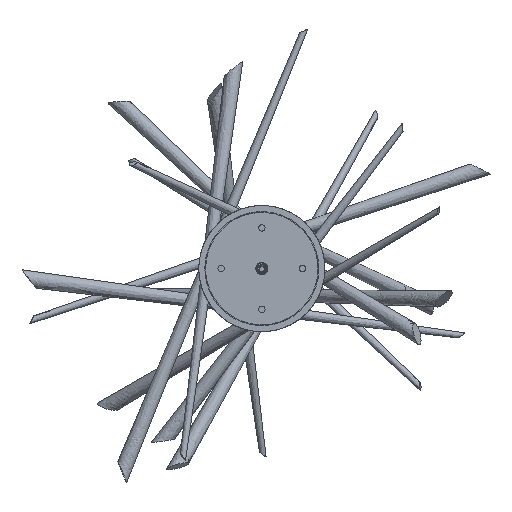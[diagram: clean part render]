
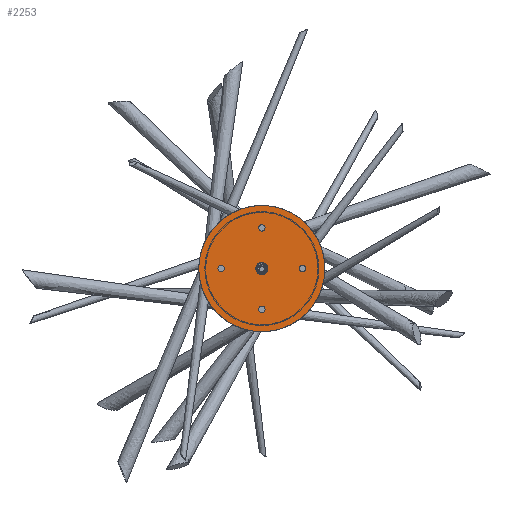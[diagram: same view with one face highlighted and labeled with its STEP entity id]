
A CAD part, top view. The second image highlights one B-rep face of the part: STEP entity #2253.
In plain terms, the highlighted planar face has unit normal (0, 0, 1).
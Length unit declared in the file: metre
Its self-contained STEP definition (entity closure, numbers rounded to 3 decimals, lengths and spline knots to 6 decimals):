
#1245=FACE_BOUND('',#4664,.T.);
#1246=FACE_BOUND('',#4665,.T.);
#1247=FACE_BOUND('',#4666,.T.);
#1248=FACE_BOUND('',#4667,.T.);
#1249=FACE_BOUND('',#4668,.T.);
#2253=ADVANCED_FACE('',(#3359,#1245,#1246,#1247,#1248,#1249),#18971,.T.);
#3359=FACE_OUTER_BOUND('',#4663,.T.);
#4663=EDGE_LOOP('',(#9895,#9896));
#4664=EDGE_LOOP('',(#9897,#9898));
#4665=EDGE_LOOP('',(#9899,#9900));
#4666=EDGE_LOOP('',(#9901,#9902));
#4667=EDGE_LOOP('',(#9903,#9904));
#4668=EDGE_LOOP('',(#9905,#9906));
#9895=ORIENTED_EDGE('',*,*,#13287,.F.);
#9896=ORIENTED_EDGE('',*,*,#13288,.F.);
#9897=ORIENTED_EDGE('',*,*,#13263,.T.);
#9898=ORIENTED_EDGE('',*,*,#13262,.T.);
#9899=ORIENTED_EDGE('',*,*,#13268,.T.);
#9900=ORIENTED_EDGE('',*,*,#13267,.T.);
#9901=ORIENTED_EDGE('',*,*,#13273,.T.);
#9902=ORIENTED_EDGE('',*,*,#13272,.T.);
#9903=ORIENTED_EDGE('',*,*,#13278,.T.);
#9904=ORIENTED_EDGE('',*,*,#13277,.T.);
#9905=ORIENTED_EDGE('',*,*,#13283,.T.);
#9906=ORIENTED_EDGE('',*,*,#13282,.T.);
#13262=EDGE_CURVE('',#18420,#18421,#16467,.T.);
#13263=EDGE_CURVE('',#18421,#18420,#16468,.T.);
#13267=EDGE_CURVE('',#18424,#18425,#16471,.T.);
#13268=EDGE_CURVE('',#18425,#18424,#16472,.T.);
#13272=EDGE_CURVE('',#18428,#18429,#16475,.T.);
#13273=EDGE_CURVE('',#18429,#18428,#16476,.T.);
#13277=EDGE_CURVE('',#18432,#18433,#16479,.T.);
#13278=EDGE_CURVE('',#18433,#18432,#16480,.T.);
#13282=EDGE_CURVE('',#18436,#18437,#16483,.T.);
#13283=EDGE_CURVE('',#18437,#18436,#16484,.T.);
#13287=EDGE_CURVE('',#18440,#18441,#16487,.T.);
#13288=EDGE_CURVE('',#18441,#18440,#16488,.T.);
#16467=(
BOUNDED_CURVE()
B_SPLINE_CURVE(2,(#47457,#47458,#47459,#47460,#47461),.UNSPECIFIED.,.F.,
 .F.)
B_SPLINE_CURVE_WITH_KNOTS((3,2,3),(47.12389,70.685835,94.24778),
 .UNSPECIFIED.)
CURVE()
GEOMETRIC_REPRESENTATION_ITEM()
RATIONAL_B_SPLINE_CURVE((1.,0.707,1.,0.707,1.))
REPRESENTATION_ITEM('')
);
#16468=(
BOUNDED_CURVE()
B_SPLINE_CURVE(2,(#47462,#47463,#47464,#47465,#47466),.UNSPECIFIED.,.F.,
 .F.)
B_SPLINE_CURVE_WITH_KNOTS((3,2,3),(0.,23.561945,47.12389),
 .UNSPECIFIED.)
CURVE()
GEOMETRIC_REPRESENTATION_ITEM()
RATIONAL_B_SPLINE_CURVE((1.,0.707,1.,0.707,1.))
REPRESENTATION_ITEM('')
);
#16471=(
BOUNDED_CURVE()
B_SPLINE_CURVE(2,(#47479,#47480,#47481,#47482,#47483),.UNSPECIFIED.,.F.,
 .F.)
B_SPLINE_CURVE_WITH_KNOTS((3,2,3),(25.132741,37.699112,50.265482),
 .UNSPECIFIED.)
CURVE()
GEOMETRIC_REPRESENTATION_ITEM()
RATIONAL_B_SPLINE_CURVE((1.,0.707,1.,0.707,1.))
REPRESENTATION_ITEM('')
);
#16472=(
BOUNDED_CURVE()
B_SPLINE_CURVE(2,(#47484,#47485,#47486,#47487,#47488),.UNSPECIFIED.,.F.,
 .F.)
B_SPLINE_CURVE_WITH_KNOTS((3,2,3),(0.,12.566371,25.132741),
 .UNSPECIFIED.)
CURVE()
GEOMETRIC_REPRESENTATION_ITEM()
RATIONAL_B_SPLINE_CURVE((1.,0.707,1.,0.707,1.))
REPRESENTATION_ITEM('')
);
#16475=(
BOUNDED_CURVE()
B_SPLINE_CURVE(2,(#47501,#47502,#47503,#47504,#47505),.UNSPECIFIED.,.F.,
 .F.)
B_SPLINE_CURVE_WITH_KNOTS((3,2,3),(25.132741,37.699112,50.265482),
 .UNSPECIFIED.)
CURVE()
GEOMETRIC_REPRESENTATION_ITEM()
RATIONAL_B_SPLINE_CURVE((1.,0.707,1.,0.707,1.))
REPRESENTATION_ITEM('')
);
#16476=(
BOUNDED_CURVE()
B_SPLINE_CURVE(2,(#47506,#47507,#47508,#47509,#47510),.UNSPECIFIED.,.F.,
 .F.)
B_SPLINE_CURVE_WITH_KNOTS((3,2,3),(0.,12.566371,25.132741),
 .UNSPECIFIED.)
CURVE()
GEOMETRIC_REPRESENTATION_ITEM()
RATIONAL_B_SPLINE_CURVE((1.,0.707,1.,0.707,1.))
REPRESENTATION_ITEM('')
);
#16479=(
BOUNDED_CURVE()
B_SPLINE_CURVE(2,(#47523,#47524,#47525,#47526,#47527),.UNSPECIFIED.,.F.,
 .F.)
B_SPLINE_CURVE_WITH_KNOTS((3,2,3),(25.132741,37.699112,50.265482),
 .UNSPECIFIED.)
CURVE()
GEOMETRIC_REPRESENTATION_ITEM()
RATIONAL_B_SPLINE_CURVE((1.,0.707,1.,0.707,1.))
REPRESENTATION_ITEM('')
);
#16480=(
BOUNDED_CURVE()
B_SPLINE_CURVE(2,(#47528,#47529,#47530,#47531,#47532),.UNSPECIFIED.,.F.,
 .F.)
B_SPLINE_CURVE_WITH_KNOTS((3,2,3),(0.,12.566371,25.132741),
 .UNSPECIFIED.)
CURVE()
GEOMETRIC_REPRESENTATION_ITEM()
RATIONAL_B_SPLINE_CURVE((1.,0.707,1.,0.707,1.))
REPRESENTATION_ITEM('')
);
#16483=(
BOUNDED_CURVE()
B_SPLINE_CURVE(2,(#47545,#47546,#47547,#47548,#47549),.UNSPECIFIED.,.F.,
 .F.)
B_SPLINE_CURVE_WITH_KNOTS((3,2,3),(25.132741,37.699112,50.265482),
 .UNSPECIFIED.)
CURVE()
GEOMETRIC_REPRESENTATION_ITEM()
RATIONAL_B_SPLINE_CURVE((1.,0.707,1.,0.707,1.))
REPRESENTATION_ITEM('')
);
#16484=(
BOUNDED_CURVE()
B_SPLINE_CURVE(2,(#47550,#47551,#47552,#47553,#47554),.UNSPECIFIED.,.F.,
 .F.)
B_SPLINE_CURVE_WITH_KNOTS((3,2,3),(0.,12.566371,25.132741),
 .UNSPECIFIED.)
CURVE()
GEOMETRIC_REPRESENTATION_ITEM()
RATIONAL_B_SPLINE_CURVE((1.,0.707,1.,0.707,1.))
REPRESENTATION_ITEM('')
);
#16487=(
BOUNDED_CURVE()
B_SPLINE_CURVE(2,(#47567,#47568,#47569,#47570,#47571),.UNSPECIFIED.,.F.,
 .F.)
B_SPLINE_CURVE_WITH_KNOTS((3,2,3),(0.,243.473431,486.946861),
 .UNSPECIFIED.)
CURVE()
GEOMETRIC_REPRESENTATION_ITEM()
RATIONAL_B_SPLINE_CURVE((1.,0.707,1.,0.707,1.))
REPRESENTATION_ITEM('')
);
#16488=(
BOUNDED_CURVE()
B_SPLINE_CURVE(2,(#47572,#47573,#47574,#47575,#47576),.UNSPECIFIED.,.F.,
 .F.)
B_SPLINE_CURVE_WITH_KNOTS((3,2,3),(486.946861,730.420292,973.893723),
 .UNSPECIFIED.)
CURVE()
GEOMETRIC_REPRESENTATION_ITEM()
RATIONAL_B_SPLINE_CURVE((1.,0.707,1.,0.707,1.))
REPRESENTATION_ITEM('')
);
#18420=VERTEX_POINT('',#47433);
#18421=VERTEX_POINT('',#47434);
#18424=VERTEX_POINT('',#47437);
#18425=VERTEX_POINT('',#47438);
#18428=VERTEX_POINT('',#47441);
#18429=VERTEX_POINT('',#47442);
#18432=VERTEX_POINT('',#47445);
#18433=VERTEX_POINT('',#47446);
#18436=VERTEX_POINT('',#47449);
#18437=VERTEX_POINT('',#47450);
#18440=VERTEX_POINT('',#47453);
#18441=VERTEX_POINT('',#47454);
#18971=PLANE('',#20083);
#20083=AXIS2_PLACEMENT_3D('',#47371,#20351,$);
#20351=DIRECTION('',(0.,0.,1.));
#47371=CARTESIAN_POINT('',(186.12,-186.12,2.));
#47433=CARTESIAN_POINT('',(-15.,0.,2.));
#47434=CARTESIAN_POINT('',(15.,0.,2.));
#47437=CARTESIAN_POINT('',(-8.,-100.,2.));
#47438=CARTESIAN_POINT('',(8.,-100.,2.));
#47441=CARTESIAN_POINT('',(-108.,0.,2.));
#47442=CARTESIAN_POINT('',(-92.,0.,2.));
#47445=CARTESIAN_POINT('',(-8.,100.,2.));
#47446=CARTESIAN_POINT('',(8.,100.,2.));
#47449=CARTESIAN_POINT('',(92.,0.,2.));
#47450=CARTESIAN_POINT('',(108.,0.,2.));
#47453=CARTESIAN_POINT('',(155.,0.,2.));
#47454=CARTESIAN_POINT('',(-155.,0.,2.));
#47457=CARTESIAN_POINT('',(-15.,0.,2.));
#47458=CARTESIAN_POINT('',(-15.,15.,2.));
#47459=CARTESIAN_POINT('',(0.,15.,2.));
#47460=CARTESIAN_POINT('',(15.,15.,2.));
#47461=CARTESIAN_POINT('',(15.,0.,2.));
#47462=CARTESIAN_POINT('',(15.,0.,2.));
#47463=CARTESIAN_POINT('',(15.,-15.,2.));
#47464=CARTESIAN_POINT('',(0.,-15.,2.));
#47465=CARTESIAN_POINT('',(-15.,-15.,2.));
#47466=CARTESIAN_POINT('',(-15.,0.,2.));
#47479=CARTESIAN_POINT('',(-8.,-100.,2.));
#47480=CARTESIAN_POINT('',(-8.,-92.,2.));
#47481=CARTESIAN_POINT('',(0.,-92.,2.));
#47482=CARTESIAN_POINT('',(8.,-92.,2.));
#47483=CARTESIAN_POINT('',(8.,-100.,2.));
#47484=CARTESIAN_POINT('',(8.,-100.,2.));
#47485=CARTESIAN_POINT('',(8.,-108.,2.));
#47486=CARTESIAN_POINT('',(0.,-108.,2.));
#47487=CARTESIAN_POINT('',(-8.,-108.,2.));
#47488=CARTESIAN_POINT('',(-8.,-100.,2.));
#47501=CARTESIAN_POINT('',(-108.,0.,2.));
#47502=CARTESIAN_POINT('',(-108.,8.,2.));
#47503=CARTESIAN_POINT('',(-100.,8.,2.));
#47504=CARTESIAN_POINT('',(-92.,8.,2.));
#47505=CARTESIAN_POINT('',(-92.,0.,2.));
#47506=CARTESIAN_POINT('',(-92.,0.,2.));
#47507=CARTESIAN_POINT('',(-92.,-8.,2.));
#47508=CARTESIAN_POINT('',(-100.,-8.,2.));
#47509=CARTESIAN_POINT('',(-108.,-8.,2.));
#47510=CARTESIAN_POINT('',(-108.,0.,2.));
#47523=CARTESIAN_POINT('',(-8.,100.,2.));
#47524=CARTESIAN_POINT('',(-8.,108.,2.));
#47525=CARTESIAN_POINT('',(0.,108.,2.));
#47526=CARTESIAN_POINT('',(8.,108.,2.));
#47527=CARTESIAN_POINT('',(8.,100.,2.));
#47528=CARTESIAN_POINT('',(8.,100.,2.));
#47529=CARTESIAN_POINT('',(8.,92.,2.));
#47530=CARTESIAN_POINT('',(0.,92.,2.));
#47531=CARTESIAN_POINT('',(-8.,92.,2.));
#47532=CARTESIAN_POINT('',(-8.,100.,2.));
#47545=CARTESIAN_POINT('',(92.,0.,2.));
#47546=CARTESIAN_POINT('',(92.,8.,2.));
#47547=CARTESIAN_POINT('',(100.,8.,2.));
#47548=CARTESIAN_POINT('',(108.,8.,2.));
#47549=CARTESIAN_POINT('',(108.,0.,2.));
#47550=CARTESIAN_POINT('',(108.,0.,2.));
#47551=CARTESIAN_POINT('',(108.,-8.,2.));
#47552=CARTESIAN_POINT('',(100.,-8.,2.));
#47553=CARTESIAN_POINT('',(92.,-8.,2.));
#47554=CARTESIAN_POINT('',(92.,0.,2.));
#47567=CARTESIAN_POINT('',(155.,0.,2.));
#47568=CARTESIAN_POINT('',(155.,-155.,2.));
#47569=CARTESIAN_POINT('',(0.,-155.,2.));
#47570=CARTESIAN_POINT('',(-155.,-155.,2.));
#47571=CARTESIAN_POINT('',(-155.,0.,2.));
#47572=CARTESIAN_POINT('',(-155.,0.,2.));
#47573=CARTESIAN_POINT('',(-155.,155.,2.));
#47574=CARTESIAN_POINT('',(0.,155.,2.));
#47575=CARTESIAN_POINT('',(155.,155.,2.));
#47576=CARTESIAN_POINT('',(155.,0.,2.));
